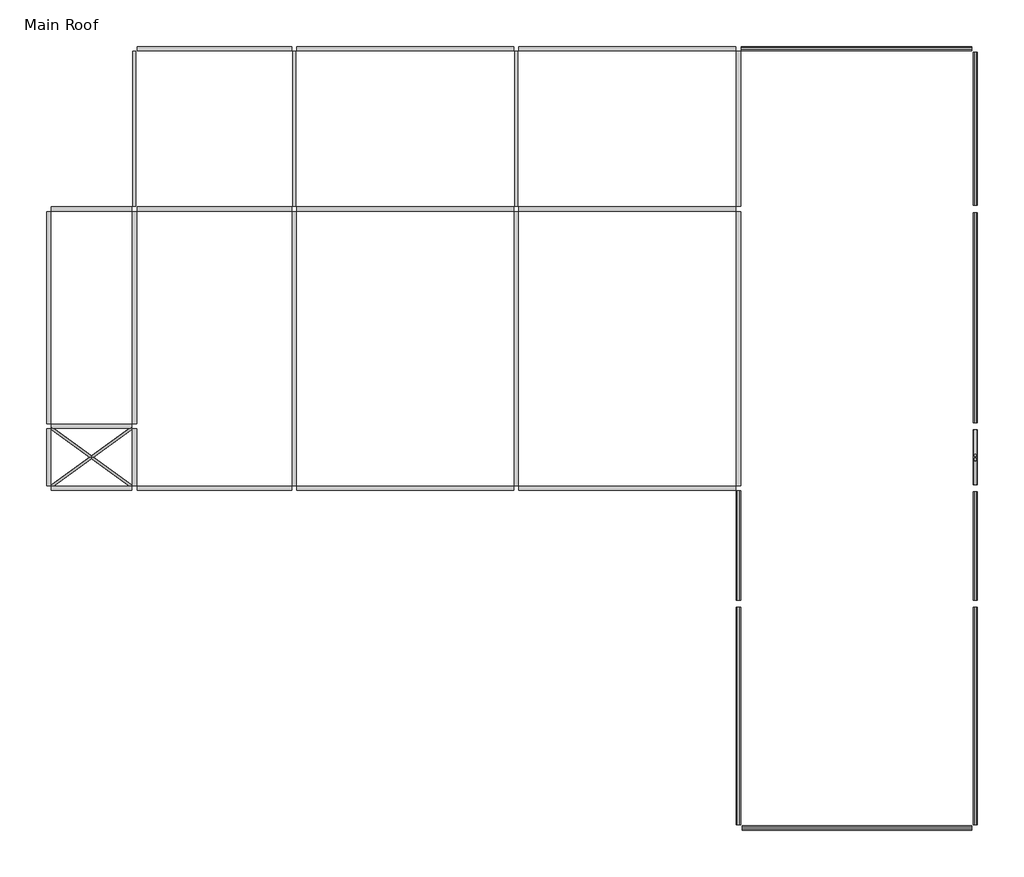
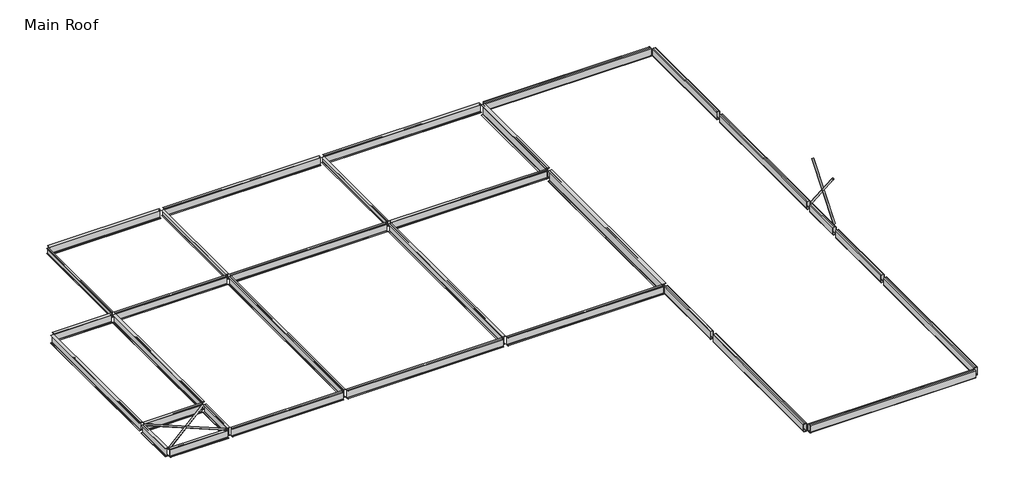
# One storey: 36 beams.
"""IFC4 building model written with IfcOpenShell, lengths in millimetres."""

from ifc_helpers import new_model, si_unit, origin, place, context, project, spatial, transform, mapped, element, save
from components import chs_circular_hollow_sections_chs88_9x5_9bcd5b47, chs_circular_hollow_sections_chs88_9x5_3ce3351f, chs_circular_hollow_sections_chs88_9x5_759ee696, rhs_rectangular_hollow_sections_rhs_400x150x16_02b2573c, rhs_rectangular_hollow_sections_rhs_400x150x16_e138dd60, rhs_rectangular_hollow_sections_rhs_400x150x16_f32051a2, rhs_rectangular_hollow_sections_rhs_400x150x16_d0cd4388, rhs_rectangular_hollow_sections_rhs_400x150x16_86f8c13a, rhs_rectangular_hollow_sections_rhs_400x150x16_c2b2d87c, rhs_rectangular_hollow_sections_rhs_400x150x16_ad5eef5e, rhs_rectangular_hollow_sections_rhs_400x150x16_8b646e73, ukb254x102x22_70f9bd95, ukb406x140x39_573959fe, ukb406x140x39_028f263f, ukb406x140x39_7511dd39, ukb406x140x39_ad995a43, ukb406x140x39_071d9f23, ukb406x140x39_976f695d, ukb533x165x66_131661b1, ukb533x165x66_0dd4db16

model = new_model("IFC4")

# Units and contexts
model_context = context("Model", 3, world=origin())
ifc_project = project(units=[si_unit("LENGTHUNIT", "METRE", prefix="MILLI")], contexts=[model_context])

# Site, building, storey
site = spatial("IfcSite", under=ifc_project)
building = spatial("IfcBuilding", under=site)
storey = spatial("IfcBuildingStorey", under=building, Name="Main Roof", Elevation=8000.0)

# Beams
placement = place(None, origin())
chs_circular_hollow_sections_chs88_9x5_shape = chs_circular_hollow_sections_chs88_9x5_9bcd5b47(model_context)
element("IfcBeam", 1, ObjectType="CHS-Circular Hollow Sections : CHS88.9x5", at=placement, inside=storey, context=model_context, shape_type="MappedRepresentation", body=[
    mapped(chs_circular_hollow_sections_chs88_9x5_shape, transform((3792.7060496, -17812.9552001, 7955.55), x_axis=(-0.8098520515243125, -0.5866341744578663, 0.0), y_axis=(0.5866341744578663, -0.8098520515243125, 0.0), z_axis=(0.0, 0.0, 1.0))),
])
element("IfcBeam", 2, ObjectType="CHS-Circular Hollow Sections : CHS88.9x5", at=placement, inside=storey, context=model_context, shape_type="MappedRepresentation", body=[
    mapped(chs_circular_hollow_sections_chs88_9x5_shape, transform((3792.7060496, -17812.9552001, 7955.55), x_axis=(-0.8098520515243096, 0.5866341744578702, 0.0), y_axis=(-0.5866341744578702, -0.8098520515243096, 0.0), z_axis=(0.0, 0.0, 1.0))),
])
chs_circular_hollow_sections_chs88_9x5_2_shape = chs_circular_hollow_sections_chs88_9x5_3ce3351f(model_context)
element("IfcBeam", 3, ObjectType="CHS-Circular Hollow Sections : CHS88.9x5", at=placement, inside=storey, context=model_context, shape_type="MappedRepresentation", body=[
    mapped(chs_circular_hollow_sections_chs88_9x5_2_shape, transform((34119.7060496, -17847.9822781, 9338.331569), x_axis=(0.0, -0.6156614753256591, 0.7880107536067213), y_axis=(1.0, 0.0, 0.0), z_axis=(0.0, 0.7880107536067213, 0.6156614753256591))),
])
chs_circular_hollow_sections_chs88_9x5_3_shape = chs_circular_hollow_sections_chs88_9x5_759ee696(model_context)
element("IfcBeam", 4, ObjectType="CHS-Circular Hollow Sections : CHS88.9x5", at=placement, inside=storey, context=model_context, shape_type="MappedRepresentation", body=[
    mapped(chs_circular_hollow_sections_chs88_9x5_3_shape, transform((34119.7060496, -17777.9281221, 9338.331569), x_axis=(0.0, 0.6156614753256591, 0.7880107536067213), y_axis=(-1.0, 0.0, 0.0), z_axis=(0.0, -0.7880107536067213, 0.6156614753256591))),
])
rhs_rectangular_hollow_sections_rhs_400x150x16_shape = rhs_rectangular_hollow_sections_rhs_400x150x16_02b2573c(model_context)
element("IfcBeam", 5, ObjectType="RHS-Rectangular Hollow Sections : RHS 400x150x16", at=placement, inside=storey, context=model_context, shape_type="MappedRepresentation", body=[
    mapped(rhs_rectangular_hollow_sections_rhs_400x150x16_shape, transform((30055.7060496, -3791.9552001, 7800.0), x_axis=(1.0, 0.0, 0.0), y_axis=(0.0, 1.0, 0.0), z_axis=(0.0, 0.0, 1.0))),
])
rhs_rectangular_hollow_sections_rhs_400x150x16_2_shape = rhs_rectangular_hollow_sections_rhs_400x150x16_e138dd60(model_context)
element("IfcBeam", 6, ObjectType="RHS-Rectangular Hollow Sections : RHS 400x150x16", at=placement, inside=storey, context=model_context, shape_type="MappedRepresentation", body=[
    mapped(rhs_rectangular_hollow_sections_rhs_400x150x16_2_shape, transform((34119.7060496, -17812.9552001, 7800.0), x_axis=(0.0, -1.0, 0.0), y_axis=(1.0, 0.0, 0.0), z_axis=(0.0, 0.0, 1.0))),
])
rhs_rectangular_hollow_sections_rhs_400x150x16_3_shape = rhs_rectangular_hollow_sections_rhs_400x150x16_f32051a2(model_context)
element("IfcBeam", 7, ObjectType="RHS-Rectangular Hollow Sections : RHS 400x150x16", at=placement, inside=storey, context=model_context, shape_type="MappedRepresentation", body=[
    mapped(rhs_rectangular_hollow_sections_rhs_400x150x16_3_shape, transform((34119.7060496, -20860.9552001, 7800.0), x_axis=(0.0, -1.0, 0.0), y_axis=(1.0, 0.0, 0.0), z_axis=(0.0, 0.0, 1.0))),
])
rhs_rectangular_hollow_sections_rhs_400x150x16_4_shape = rhs_rectangular_hollow_sections_rhs_400x150x16_d0cd4388(model_context)
element("IfcBeam", 8, ObjectType="RHS-Rectangular Hollow Sections : RHS 400x150x16", at=placement, inside=storey, context=model_context, shape_type="MappedRepresentation", body=[
    mapped(rhs_rectangular_hollow_sections_rhs_400x150x16_4_shape, transform((25991.7060496, -20860.9552001, 7800.0), x_axis=(0.0, -1.0, 0.0), y_axis=(1.0, 0.0, 0.0), z_axis=(0.0, 0.0, 1.0))),
])
rhs_rectangular_hollow_sections_rhs_400x150x16_5_shape = rhs_rectangular_hollow_sections_rhs_400x150x16_86f8c13a(model_context)
element("IfcBeam", 9, ObjectType="RHS-Rectangular Hollow Sections : RHS 400x150x16", at=placement, inside=storey, context=model_context, shape_type="MappedRepresentation", body=[
    mapped(rhs_rectangular_hollow_sections_rhs_400x150x16_5_shape, transform((34119.7060496, -26689.9552001, 7800.0), x_axis=(0.0, -1.0, 0.0), y_axis=(1.0, 0.0, 0.0), z_axis=(0.0, 0.0, 1.0))),
])
element("IfcBeam", 10, ObjectType="RHS-Rectangular Hollow Sections : RHS 400x150x16", at=placement, inside=storey, context=model_context, shape_type="MappedRepresentation", body=[
    mapped(rhs_rectangular_hollow_sections_rhs_400x150x16_5_shape, transform((25991.7060496, -26689.9552001, 7800.0), x_axis=(0.0, -1.0, 0.0), y_axis=(1.0, 0.0, 0.0), z_axis=(0.0, 0.0, 1.0))),
])
rhs_rectangular_hollow_sections_rhs_400x150x16_6_shape = rhs_rectangular_hollow_sections_rhs_400x150x16_c2b2d87c(model_context)
element("IfcBeam", 11, ObjectType="RHS-Rectangular Hollow Sections : RHS 400x150x16", at=placement, inside=storey, context=model_context, shape_type="MappedRepresentation", body=[
    mapped(rhs_rectangular_hollow_sections_rhs_400x150x16_6_shape, transform((30055.7060496, -30537.9552001, 7800.0), x_axis=(-1.0, 0.0, 0.0), y_axis=(0.0, -1.0, 0.0), z_axis=(0.0, 0.0, 1.0))),
])
rhs_rectangular_hollow_sections_rhs_400x150x16_7_shape = rhs_rectangular_hollow_sections_rhs_400x150x16_ad5eef5e(model_context)
element("IfcBeam", 12, ObjectType="RHS-Rectangular Hollow Sections : RHS 400x150x16", at=placement, inside=storey, context=model_context, shape_type="MappedRepresentation", body=[
    mapped(rhs_rectangular_hollow_sections_rhs_400x150x16_7_shape, transform((34119.7060496, -13018.4552001, 7800.0), x_axis=(0.0, -1.0, 0.0), y_axis=(1.0, 0.0, 0.0), z_axis=(0.0, 0.0, 1.0))),
])
rhs_rectangular_hollow_sections_rhs_400x150x16_8_shape = rhs_rectangular_hollow_sections_rhs_400x150x16_8b646e73(model_context)
element("IfcBeam", 13, ObjectType="RHS-Rectangular Hollow Sections : RHS 400x150x16", at=placement, inside=storey, context=model_context, shape_type="MappedRepresentation", body=[
    mapped(rhs_rectangular_hollow_sections_rhs_400x150x16_8_shape, transform((34119.7060496, -6541.4552001, 7800.0), x_axis=(0.0, -1.0, 0.0), y_axis=(1.0, 0.0, 0.0), z_axis=(0.0, 0.0, 1.0))),
])
ukb254x102x22_shape = ukb254x102x22_70f9bd95(model_context)
element("IfcBeam", 14, ObjectType="UKB-UK Beams : UKB254x102x22", at=placement, inside=storey, context=model_context, shape_type="MappedRepresentation", body=[
    mapped(ukb254x102x22_shape, transform((5265.7060496, -6541.4552001, 7873.0), x_axis=(0.0, -1.0, 0.0), y_axis=(1.0, 0.0, 0.0), z_axis=(0.0, 0.0, 1.0))),
])
element("IfcBeam", 15, ObjectType="UKB-UK Beams : UKB254x102x22", at=placement, inside=storey, context=model_context, shape_type="MappedRepresentation", body=[
    mapped(ukb254x102x22_shape, transform((10751.7060496, -6541.4552001, 7873.0), x_axis=(0.0, -1.0, 0.0), y_axis=(1.0, 0.0, 0.0), z_axis=(0.0, 0.0, 1.0))),
])
element("IfcBeam", 16, ObjectType="UKB-UK Beams : UKB254x102x22", at=placement, inside=storey, context=model_context, shape_type="MappedRepresentation", body=[
    mapped(ukb254x102x22_shape, transform((18371.7060496, -6541.4552001, 7873.0), x_axis=(0.0, -1.0, 0.0), y_axis=(1.0, 0.0, 0.0), z_axis=(0.0, 0.0, 1.0))),
])
ukb406x140x39_shape = ukb406x140x39_573959fe(model_context)
element("IfcBeam", 17, ObjectType="UKB-UK Beams : UKB406x140x39", at=placement, inside=storey, context=model_context, shape_type="MappedRepresentation", body=[
    mapped(ukb406x140x39_shape, transform((2319.7060496, -13018.4552001, 7801.0), x_axis=(0.0, -1.0, 0.0), y_axis=(1.0, 0.0, 0.0), z_axis=(0.0, 0.0, 1.0))),
])
element("IfcBeam", 18, ObjectType="UKB-UK Beams : UKB406x140x39", at=placement, inside=storey, context=model_context, shape_type="MappedRepresentation", body=[
    mapped(ukb406x140x39_shape, transform((5265.7060496, -13018.4552001, 7801.0), x_axis=(0.0, -1.0, 0.0), y_axis=(1.0, 0.0, 0.0), z_axis=(0.0, 0.0, 1.0))),
])
ukb406x140x39_2_shape = ukb406x140x39_028f263f(model_context)
element("IfcBeam", 19, ObjectType="UKB-UK Beams : UKB406x140x39", at=placement, inside=storey, context=model_context, shape_type="MappedRepresentation", body=[
    mapped(ukb406x140x39_2_shape, transform((3792.7060496, -9290.9552001, 7801.0), x_axis=(1.0, 0.0, 0.0), y_axis=(0.0, 1.0, 0.0), z_axis=(0.0, 0.0, 1.0))),
])
element("IfcBeam", 20, ObjectType="UKB-UK Beams : UKB406x140x39", at=placement, inside=storey, context=model_context, shape_type="MappedRepresentation", body=[
    mapped(ukb406x140x39_2_shape, transform((3792.7060496, -16745.9552001, 7801.0), x_axis=(1.0, 0.0, 0.0), y_axis=(0.0, 1.0, 0.0), z_axis=(0.0, 0.0, 1.0))),
])
element("IfcBeam", 21, ObjectType="UKB-UK Beams : UKB406x140x39", at=placement, inside=storey, context=model_context, shape_type="MappedRepresentation", body=[
    mapped(ukb406x140x39_2_shape, transform((3792.7060496, -18879.9552001, 7801.0), x_axis=(1.0, 0.0, 0.0), y_axis=(0.0, 1.0, 0.0), z_axis=(0.0, 0.0, 1.0))),
])
ukb406x140x39_3_shape = ukb406x140x39_7511dd39(model_context)
element("IfcBeam", 22, ObjectType="UKB-UK Beams : UKB406x140x39", at=placement, inside=storey, context=model_context, shape_type="MappedRepresentation", body=[
    mapped(ukb406x140x39_3_shape, transform((2319.7060496, -17812.9552001, 7801.0), x_axis=(0.0, 1.0, 0.0), y_axis=(-1.0, 0.0, 0.0), z_axis=(0.0, 0.0, 1.0))),
])
element("IfcBeam", 23, ObjectType="UKB-UK Beams : UKB406x140x39", at=placement, inside=storey, context=model_context, shape_type="MappedRepresentation", body=[
    mapped(ukb406x140x39_3_shape, transform((5265.7060496, -17812.9552001, 7801.0), x_axis=(0.0, 1.0, 0.0), y_axis=(-1.0, 0.0, 0.0), z_axis=(0.0, 0.0, 1.0))),
])
ukb406x140x39_4_shape = ukb406x140x39_ad995a43(model_context)
element("IfcBeam", 24, ObjectType="UKB-UK Beams : UKB406x140x39", at=placement, inside=storey, context=model_context, shape_type="MappedRepresentation", body=[
    mapped(ukb406x140x39_4_shape, transform((8008.7060496, -3791.9552001, 7801.0), x_axis=(1.0, 0.0, 0.0), y_axis=(0.0, 1.0, 0.0), z_axis=(0.0, 0.0, 1.0))),
])
element("IfcBeam", 25, ObjectType="UKB-UK Beams : UKB406x140x39", at=placement, inside=storey, context=model_context, shape_type="MappedRepresentation", body=[
    mapped(ukb406x140x39_4_shape, transform((8008.7060496, -9290.9552001, 7801.0), x_axis=(1.0, 0.0, 0.0), y_axis=(0.0, 1.0, 0.0), z_axis=(0.0, 0.0, 1.0))),
])
element("IfcBeam", 26, ObjectType="UKB-UK Beams : UKB406x140x39", at=placement, inside=storey, context=model_context, shape_type="MappedRepresentation", body=[
    mapped(ukb406x140x39_4_shape, transform((8008.7060496, -18879.9552001, 7801.0), x_axis=(1.0, 0.0, 0.0), y_axis=(0.0, 1.0, 0.0), z_axis=(0.0, 0.0, 1.0))),
])
ukb406x140x39_5_shape = ukb406x140x39_071d9f23(model_context)
element("IfcBeam", 27, ObjectType="UKB-UK Beams : UKB406x140x39", at=placement, inside=storey, context=model_context, shape_type="MappedRepresentation", body=[
    mapped(ukb406x140x39_5_shape, transform((14561.7060496, -3791.9552001, 7801.0), x_axis=(1.0, 0.0, 0.0), y_axis=(0.0, 1.0, 0.0), z_axis=(0.0, 0.0, 1.0))),
])
element("IfcBeam", 28, ObjectType="UKB-UK Beams : UKB406x140x39", at=placement, inside=storey, context=model_context, shape_type="MappedRepresentation", body=[
    mapped(ukb406x140x39_5_shape, transform((14561.7060496, -9290.9552001, 7801.0), x_axis=(1.0, 0.0, 0.0), y_axis=(0.0, 1.0, 0.0), z_axis=(0.0, 0.0, 1.0))),
])
element("IfcBeam", 29, ObjectType="UKB-UK Beams : UKB406x140x39", at=placement, inside=storey, context=model_context, shape_type="MappedRepresentation", body=[
    mapped(ukb406x140x39_5_shape, transform((22181.7060496, -3791.9552001, 7801.0), x_axis=(1.0, 0.0, 0.0), y_axis=(0.0, 1.0, 0.0), z_axis=(0.0, 0.0, 1.0))),
])
element("IfcBeam", 30, ObjectType="UKB-UK Beams : UKB406x140x39", at=placement, inside=storey, context=model_context, shape_type="MappedRepresentation", body=[
    mapped(ukb406x140x39_5_shape, transform((22181.7060496, -9290.9552001, 7801.0), x_axis=(1.0, 0.0, 0.0), y_axis=(0.0, 1.0, 0.0), z_axis=(0.0, 0.0, 1.0))),
])
element("IfcBeam", 31, ObjectType="UKB-UK Beams : UKB406x140x39", at=placement, inside=storey, context=model_context, shape_type="MappedRepresentation", body=[
    mapped(ukb406x140x39_5_shape, transform((14561.7060496, -18879.9552001, 7801.0), x_axis=(1.0, 0.0, 0.0), y_axis=(0.0, 1.0, 0.0), z_axis=(0.0, 0.0, 1.0))),
])
element("IfcBeam", 32, ObjectType="UKB-UK Beams : UKB406x140x39", at=placement, inside=storey, context=model_context, shape_type="MappedRepresentation", body=[
    mapped(ukb406x140x39_5_shape, transform((22181.7060496, -18879.9552001, 7801.0), x_axis=(1.0, 0.0, 0.0), y_axis=(0.0, 1.0, 0.0), z_axis=(0.0, 0.0, 1.0))),
])
ukb406x140x39_6_shape = ukb406x140x39_976f695d(model_context)
element("IfcBeam", 33, ObjectType="UKB-UK Beams : UKB406x140x39", at=placement, inside=storey, context=model_context, shape_type="MappedRepresentation", body=[
    mapped(ukb406x140x39_6_shape, transform((10751.7060496, -14085.4552001, 7801.0), x_axis=(0.0, -1.0, 0.0), y_axis=(1.0, 0.0, 0.0), z_axis=(0.0, 0.0, 1.0))),
])
element("IfcBeam", 34, ObjectType="UKB-UK Beams : UKB406x140x39", at=placement, inside=storey, context=model_context, shape_type="MappedRepresentation", body=[
    mapped(ukb406x140x39_6_shape, transform((18371.7060496, -14085.4552001, 7801.0), x_axis=(0.0, -1.0, 0.0), y_axis=(1.0, 0.0, 0.0), z_axis=(0.0, 0.0, 1.0))),
])
ukb533x165x66_shape = ukb533x165x66_131661b1(model_context)
element("IfcBeam", 35, ObjectType="UKB-UK Beams : UKB533x165x66", at=placement, inside=storey, context=model_context, shape_type="MappedRepresentation", body=[
    mapped(ukb533x165x66_shape, transform((25991.7060496, -6541.4552001, 7737.65), x_axis=(0.0, -1.0, 0.0), y_axis=(1.0, 0.0, 0.0), z_axis=(0.0, 0.0, 1.0))),
])
ukb533x165x66_2_shape = ukb533x165x66_0dd4db16(model_context)
element("IfcBeam", 36, ObjectType="UKB-UK Beams : UKB533x165x66", at=placement, inside=storey, context=model_context, shape_type="MappedRepresentation", body=[
    mapped(ukb533x165x66_2_shape, transform((25991.7060496, -14085.4552001, 7737.65), x_axis=(0.0, -1.0, 0.0), y_axis=(1.0, 0.0, 0.0), z_axis=(0.0, 0.0, 1.0))),
])

save(model, "model.ifc")
